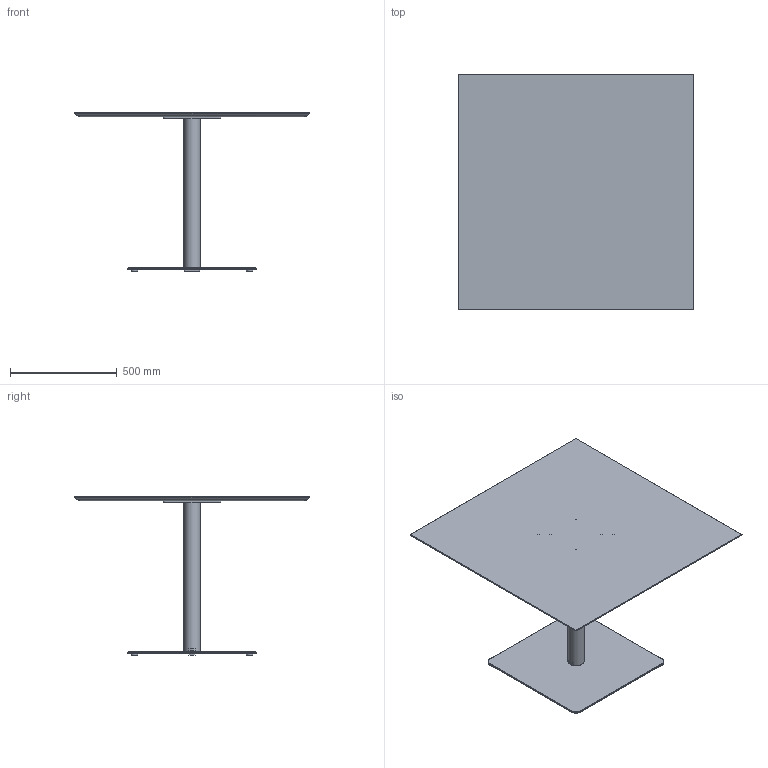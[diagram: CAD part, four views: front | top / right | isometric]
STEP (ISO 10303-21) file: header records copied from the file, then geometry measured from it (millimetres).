
FILE_DESCRIPTION( ('This file contains a STEP AP42 implementation' ,'as created by ZW3D STEP Interface translator.') ,'2;1' );
FILE_NAME( 'Henri - B_Carré - F4 - M3 - 1100 x 1100 x 750.stp' ,'24 912.173210', (''), ('ZWCAD Software Co.'), 'Version 1.0', 'ZW3D to STEP translator', '' );
FILE_SCHEMA(('AUTOMOTIVE_DESIGN { 1 0 10303 214 1 1 1 1 }'));
Length unit declared in the file: millimetre
Products named in the file (14): 0; PIED BISTROT PARAMETRIQUE_; COLONNE ACIER Ø76 V.02_; TUB-D076-02_; PLA-R76B-01_; CROIX ACIER 370 V.02_; CRX-X370-02_; SOCLE ACIER L 600x600 V.02_; SCL-R600-02_; PLA-R30A-01_; PLA-R30A-01; WUERTH 0276063020 Euro-screw 6.3x2 Verzinkt_; PLATEAU BISTROT PARAMETRIQUE_; insert_m6_13_
Assembly tree (22 placements, depth 3):
  0
  PIED BISTROT PARAMETRIQUE_
    COLONNE ACIER Ø76 V.02_
      TUB-D076-02_
      PLA-R76B-01_  x2
    CROIX ACIER 370 V.02_
      CRX-X370-02_
    SOCLE ACIER L 600x600 V.02_
      SCL-R600-02_
      PLA-R30A-01_
      PLA-R30A-01  x3
    WUERTH 0276063020 Euro-screw 6.3x2 Verzinkt_
    PLATEAU BISTROT PARAMETRIQUE_
      insert_m6_13_  x8
Bounding box: 1100 x 1100 x 744 mm (x, y, z)
Volume: 27334787.4 mm3; surface area: 3710791.8 mm2
Topology: 19 solids, 19 shells, 533 faces, 1306 edges, 818 vertices
Faces by surface type: plane 258, bspline 125, cylinder 102, cone 47, torus 1
Full cylindrical faces by diameter (mm): 4.88 x1, 6 x8, 6.3 x1, 8 x45, 12 x2, 14 x2, 30 x4, 72 x1, 76 x1
Entity records: 12234 total; most frequent: CARTESIAN_POINT 3472, ORIENTED_EDGE 1608, DIRECTION 1463, EDGE_CURVE 804, VERTEX_POINT 514, VECTOR 505, LINE 505, AXIS2_PLACEMENT_3D 479
